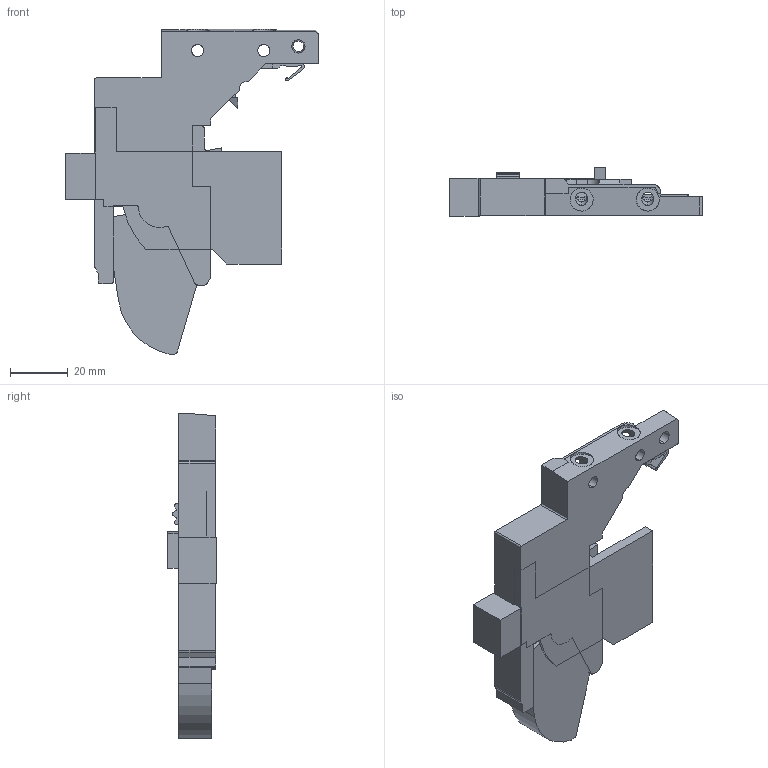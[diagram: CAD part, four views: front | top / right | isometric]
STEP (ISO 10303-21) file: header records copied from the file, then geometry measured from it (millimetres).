
FILE_DESCRIPTION (( 'STEP AP214' ), '1' );
FILE_NAME ('D10010038_Dummy.STEP', '2025-02-13T11:14:53', ( '' ), ( '' ), 'SwSTEP 2.0', 'SolidWorks 2023', '' );
FILE_SCHEMA (( 'AUTOMOTIVE_DESIGN' ));
Length unit declared in the file: millimetre
Products named in the file (1): D10010038_Dummy
Bounding box: 87.95 x 16.8 x 113.12 mm (x, y, z)
Surface area: 23443.7 mm2 (no closed solid volume)
Topology: 0 solids, 6 shells, 189 faces, 687 edges, 502 vertices
Faces by surface type: plane 119, cylinder 66, cone 4
Entity records: 8399 total; most frequent: CARTESIAN_POINT 1534, DIRECTION 1199, ORIENTED_EDGE 1182, EDGE_CURVE 687, VERTEX_POINT 502, VECTOR 477, LINE 477, AXIS2_PLACEMENT_3D 361
